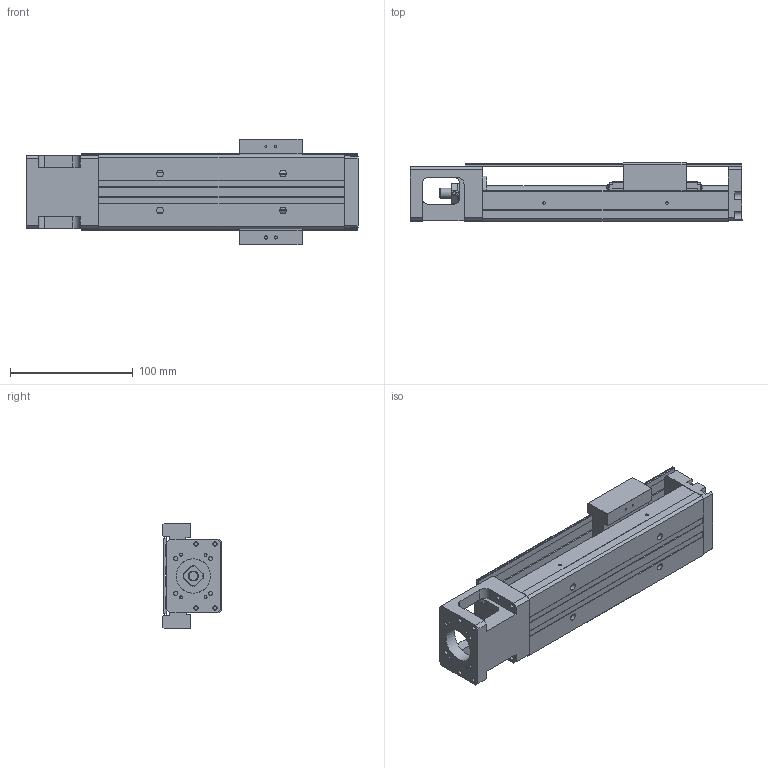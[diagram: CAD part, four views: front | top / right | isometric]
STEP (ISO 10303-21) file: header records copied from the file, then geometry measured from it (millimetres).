
FILE_DESCRIPTION(/* description */ (''),/* implementation_level */ '2;1');
FILE_NAME(/* name */ 'KP33N-200-C-D.stp',/* time_stamp */ '2020-06-04T14:04:08+08:00',/* author */ (''),/* organization */ (''),/* preprocessor_version */ 'ST-DEVELOPER v14',/* originating_system */ 'SIEMENS PLM Software NX 8.0',/* authorisation */ '');
FILE_SCHEMA (('AUTOMOTIVE_DESIGN { 1 0 10303 214 3 1 1 1 }'));
Length unit declared in the file: millimetre
Products named in the file (1): model1
Bounding box: 270 x 47.95 x 86 mm (x, y, z)
Volume: 438546.4 mm3; surface area: 145790.8 mm2
Topology: 7 solids, 12 shells, 695 faces, 1773 edges, 1172 vertices
Faces by surface type: plane 418, cylinder 190, bspline 31, cone 24, extrusion 21, torus 9, revolution 2
Full cylindrical faces by diameter (mm): 1.6 x4, 1.65 x4, 2.15 x2, 2.42 x4, 2.45 x8, 2.5 x14, 3 x3, 3.2 x4, 3.3 x4, 3.4 x3, 3.5 x10, 3.969 x1, 4 x6, 4.001 x1, 4.135 x4, 4.2 x4, 5.5 x4, 6 x4, 7.6 x1, 8 x5, 9.5 x4, 10.72 x3, 11.8 x2, 12 x6, 12.8 x1, 13 x2, 14 x1, 17.38 x3, 21.5 x1, 22 x2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
Entity records: 35603 total; most frequent: CARTESIAN_POINT 15776, DIRECTION 3166, ORIENTED_EDGE 3090, EDGE_CURVE 1545, AXIS2_PLACEMENT_3D 1098, VERTEX_POINT 1095, EDGE_LOOP 978, VECTOR 968
